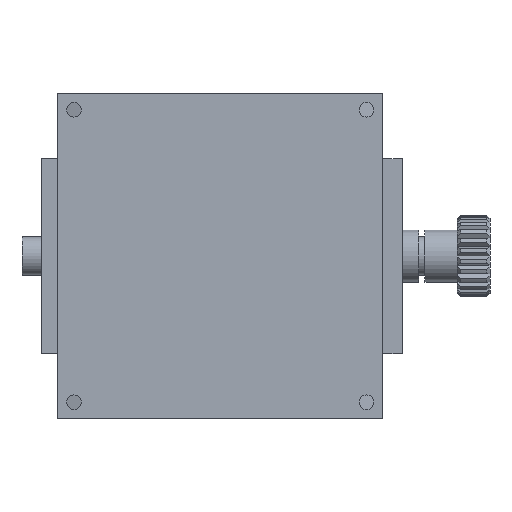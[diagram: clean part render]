
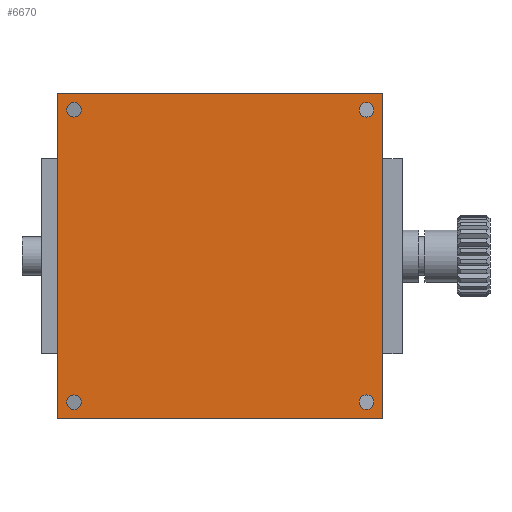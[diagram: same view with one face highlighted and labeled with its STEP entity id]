
A CAD part, front view. The second image highlights one B-rep face of the part: STEP entity #6670.
In plain terms, the highlighted planar face has unit normal (0, -1, 0).
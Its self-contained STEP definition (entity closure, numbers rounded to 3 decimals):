
#367 = CIRCLE ( 'NONE', #2613, 2.25 ) ;
#524 = EDGE_CURVE ( 'NONE', #16112, #6842, #16206, .T. ) ;
#775 = CARTESIAN_POINT ( 'NONE',  ( -45., 0., -42.75 ) ) ;
#850 = DIRECTION ( 'NONE',  ( 0., 1., 0. ) ) ;
#908 = EDGE_CURVE ( 'NONE', #8079, #29020, #18671, .T. ) ;
#1825 = VERTEX_POINT ( 'NONE', #775 ) ;
#2010 = EDGE_CURVE ( 'NONE', #2014, #2566, #7710, .T. ) ;
#2014 = VERTEX_POINT ( 'NONE', #6814 ) ;
#2056 = EDGE_CURVE ( 'NONE', #6842, #16112, #367, .T. ) ;
#2300 = CARTESIAN_POINT ( 'NONE',  ( 45., 0., 42.75 ) ) ;
#2396 = CARTESIAN_POINT ( 'NONE',  ( -45., 0., 47.25 ) ) ;
#2566 = VERTEX_POINT ( 'NONE', #2300 ) ;
#2612 = DIRECTION ( 'NONE',  ( 0., 0., 1. ) ) ;
#2613 = AXIS2_PLACEMENT_3D ( 'NONE', #7278, #22966, #5132 ) ;
#2922 = EDGE_CURVE ( 'NONE', #29020, #8079, #17826, .T. ) ;
#2954 = VERTEX_POINT ( 'NONE', #10745 ) ;
#2977 = CARTESIAN_POINT ( 'NONE',  ( -50., 0., 50. ) ) ;
#3811 = CARTESIAN_POINT ( 'NONE',  ( 45., 0., -45. ) ) ;
#4089 = EDGE_LOOP ( 'NONE', ( #7707, #11918 ) ) ;
#4468 = VECTOR ( 'NONE', #14522, 1000. ) ;
#5099 = DIRECTION ( 'NONE',  ( 0., 0., 1. ) ) ;
#5132 = DIRECTION ( 'NONE',  ( 0., 0., 1. ) ) ;
#5592 = CARTESIAN_POINT ( 'NONE',  ( -45., 0., 42.75 ) ) ;
#6428 = CARTESIAN_POINT ( 'NONE',  ( -45., 0., 45. ) ) ;
#6451 = EDGE_CURVE ( 'NONE', #1825, #2954, #25394, .T. ) ;
#6604 = DIRECTION ( 'NONE',  ( 0., 0., 1. ) ) ;
#6670 = ADVANCED_FACE ( 'NONE', ( #18014, #26822, #20828, #17682, #23263 ), #22608, .T. ) ;
#6764 = DIRECTION ( 'NONE',  ( 0., 1., 0. ) ) ;
#6814 = CARTESIAN_POINT ( 'NONE',  ( 45., 0., 47.25 ) ) ;
#6842 = VERTEX_POINT ( 'NONE', #21932 ) ;
#6955 = CARTESIAN_POINT ( 'NONE',  ( -45., 0., 45. ) ) ;
#7061 = DIRECTION ( 'NONE',  ( 0., 0., -1. ) ) ;
#7278 = CARTESIAN_POINT ( 'NONE',  ( 45., 0., -45. ) ) ;
#7707 = ORIENTED_EDGE ( 'NONE', *, *, #2056, .T. ) ;
#7710 = CIRCLE ( 'NONE', #24752, 2.25 ) ;
#7782 = ORIENTED_EDGE ( 'NONE', *, *, #11345, .T. ) ;
#7964 = ORIENTED_EDGE ( 'NONE', *, *, #11444, .F. ) ;
#8079 = VERTEX_POINT ( 'NONE', #2396 ) ;
#8238 = ORIENTED_EDGE ( 'NONE', *, *, #2922, .T. ) ;
#8519 = EDGE_LOOP ( 'NONE', ( #7964, #23567, #28800, #25720 ) ) ;
#9017 = CIRCLE ( 'NONE', #25903, 2.25 ) ;
#9448 = DIRECTION ( 'NONE',  ( 0., 1., 0. ) ) ;
#9742 = CARTESIAN_POINT ( 'NONE',  ( -45., 0., -45. ) ) ;
#10035 = LINE ( 'NONE', #19048, #4468 ) ;
#10529 = DIRECTION ( 'NONE',  ( 0., 0., 1. ) ) ;
#10745 = CARTESIAN_POINT ( 'NONE',  ( -45., 0., -47.25 ) ) ;
#10835 = AXIS2_PLACEMENT_3D ( 'NONE', #6955, #6764, #18120 ) ;
#10842 = EDGE_LOOP ( 'NONE', ( #15144, #24658 ) ) ;
#10896 = ORIENTED_EDGE ( 'NONE', *, *, #908, .T. ) ;
#10994 = CARTESIAN_POINT ( 'NONE',  ( -50., 0., -50. ) ) ;
#11223 = EDGE_LOOP ( 'NONE', ( #28457, #7782 ) ) ;
#11239 = EDGE_CURVE ( 'NONE', #20425, #16520, #24489, .T. ) ;
#11345 = EDGE_CURVE ( 'NONE', #2954, #1825, #9017, .T. ) ;
#11444 = EDGE_CURVE ( 'NONE', #16520, #23818, #13930, .T. ) ;
#11918 = ORIENTED_EDGE ( 'NONE', *, *, #524, .T. ) ;
#12182 = CIRCLE ( 'NONE', #18408, 2.25 ) ;
#12324 = AXIS2_PLACEMENT_3D ( 'NONE', #3811, #17402, #10529 ) ;
#13226 = VECTOR ( 'NONE', #7061, 1000. ) ;
#13930 = LINE ( 'NONE', #17864, #13226 ) ;
#14522 = DIRECTION ( 'NONE',  ( 0., 0., 1. ) ) ;
#14549 = CARTESIAN_POINT ( 'NONE',  ( -50., 0., 50. ) ) ;
#14559 = EDGE_CURVE ( 'NONE', #2566, #2014, #12182, .T. ) ;
#15144 = ORIENTED_EDGE ( 'NONE', *, *, #2010, .T. ) ;
#15722 = VECTOR ( 'NONE', #23150, 1000. ) ;
#16112 = VERTEX_POINT ( 'NONE', #17898 ) ;
#16206 = CIRCLE ( 'NONE', #12324, 2.25 ) ;
#16520 = VERTEX_POINT ( 'NONE', #24525 ) ;
#16795 = AXIS2_PLACEMENT_3D ( 'NONE', #27258, #22435, #18296 ) ;
#17402 = DIRECTION ( 'NONE',  ( 0., 1., 0. ) ) ;
#17682 = FACE_BOUND ( 'NONE', #11223, .T. ) ;
#17700 = DIRECTION ( 'NONE',  ( 0., 0., 1. ) ) ;
#17715 = LINE ( 'NONE', #20457, #25077 ) ;
#17826 = CIRCLE ( 'NONE', #24583, 2.25 ) ;
#17864 = CARTESIAN_POINT ( 'NONE',  ( 50., 0., 50. ) ) ;
#17898 = CARTESIAN_POINT ( 'NONE',  ( 45., 0., -47.25 ) ) ;
#18014 = FACE_BOUND ( 'NONE', #4089, .T. ) ;
#18120 = DIRECTION ( 'NONE',  ( 0., 0., 1. ) ) ;
#18296 = DIRECTION ( 'NONE',  ( 0., 0., -1. ) ) ;
#18408 = AXIS2_PLACEMENT_3D ( 'NONE', #20882, #25211, #5099 ) ;
#18671 = CIRCLE ( 'NONE', #10835, 2.25 ) ;
#19048 = CARTESIAN_POINT ( 'NONE',  ( -50., 0., 50. ) ) ;
#19747 = DIRECTION ( 'NONE',  ( 0., 1., 0. ) ) ;
#20235 = CARTESIAN_POINT ( 'NONE',  ( 50., 0., -50. ) ) ;
#20425 = VERTEX_POINT ( 'NONE', #14549 ) ;
#20457 = CARTESIAN_POINT ( 'NONE',  ( -50., 0., -50. ) ) ;
#20828 = FACE_BOUND ( 'NONE', #29046, .T. ) ;
#20882 = CARTESIAN_POINT ( 'NONE',  ( 45., 0., 45. ) ) ;
#21705 = AXIS2_PLACEMENT_3D ( 'NONE', #9742, #850, #25441 ) ;
#21893 = CARTESIAN_POINT ( 'NONE',  ( -45., 0., -45. ) ) ;
#21932 = CARTESIAN_POINT ( 'NONE',  ( 45., 0., -42.75 ) ) ;
#22435 = DIRECTION ( 'NONE',  ( 0., -1., 0. ) ) ;
#22608 = PLANE ( 'NONE',  #16795 ) ;
#22966 = DIRECTION ( 'NONE',  ( 0., 1., 0. ) ) ;
#23150 = DIRECTION ( 'NONE',  ( 1., 0., 0. ) ) ;
#23263 = FACE_OUTER_BOUND ( 'NONE', #8519, .T. ) ;
#23390 = EDGE_CURVE ( 'NONE', #23818, #24657, #17715, .T. ) ;
#23567 = ORIENTED_EDGE ( 'NONE', *, *, #11239, .F. ) ;
#23818 = VERTEX_POINT ( 'NONE', #20235 ) ;
#24489 = LINE ( 'NONE', #2977, #15722 ) ;
#24525 = CARTESIAN_POINT ( 'NONE',  ( 50., 0., 50. ) ) ;
#24583 = AXIS2_PLACEMENT_3D ( 'NONE', #6428, #26661, #17700 ) ;
#24657 = VERTEX_POINT ( 'NONE', #10994 ) ;
#24658 = ORIENTED_EDGE ( 'NONE', *, *, #14559, .T. ) ;
#24662 = DIRECTION ( 'NONE',  ( -1., 0., 0. ) ) ;
#24752 = AXIS2_PLACEMENT_3D ( 'NONE', #27126, #9448, #2612 ) ;
#25077 = VECTOR ( 'NONE', #24662, 1000. ) ;
#25211 = DIRECTION ( 'NONE',  ( 0., 1., 0. ) ) ;
#25394 = CIRCLE ( 'NONE', #21705, 2.25 ) ;
#25441 = DIRECTION ( 'NONE',  ( 0., 0., 1. ) ) ;
#25720 = ORIENTED_EDGE ( 'NONE', *, *, #23390, .F. ) ;
#25903 = AXIS2_PLACEMENT_3D ( 'NONE', #21893, #19747, #6604 ) ;
#26661 = DIRECTION ( 'NONE',  ( 0., 1., 0. ) ) ;
#26822 = FACE_BOUND ( 'NONE', #10842, .T. ) ;
#26872 = EDGE_CURVE ( 'NONE', #24657, #20425, #10035, .T. ) ;
#27126 = CARTESIAN_POINT ( 'NONE',  ( 45., 0., 45. ) ) ;
#27258 = CARTESIAN_POINT ( 'NONE',  ( 0., 0., 0. ) ) ;
#28457 = ORIENTED_EDGE ( 'NONE', *, *, #6451, .T. ) ;
#28800 = ORIENTED_EDGE ( 'NONE', *, *, #26872, .F. ) ;
#29020 = VERTEX_POINT ( 'NONE', #5592 ) ;
#29046 = EDGE_LOOP ( 'NONE', ( #10896, #8238 ) ) ;
